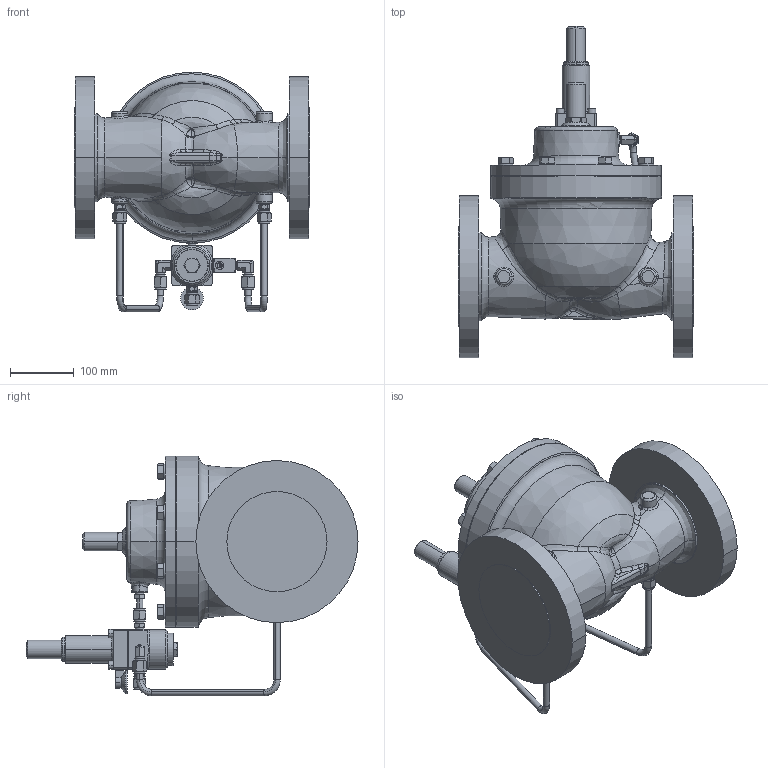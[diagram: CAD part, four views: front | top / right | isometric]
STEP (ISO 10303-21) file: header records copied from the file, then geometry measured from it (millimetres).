
FILE_DESCRIPTION((''),'2;1');
FILE_NAME('330227_ARGOS_4_300_SW0001','2019-10-30T',('jjunior'),(''),'PRO/ENGINEER BY PARAMETRIC TECHNOLOGY CORPORATION, 2010160','PRO/ENGINEER BY PARAMETRIC TECHNOLOGY CORPORATION, 2010160','');
FILE_SCHEMA(('CONFIG_CONTROL_DESIGN'));
Length unit declared in the file: millimetre
Products named in the file (1): 330227_ARGOS_4_300_SW0001
Bounding box: 368.3 x 520.1 x 375.7 mm (x, y, z)
Volume: 15342665.3 mm3; surface area: 636382 mm2
Topology: 1 solids, 2 shells, 963 faces, 2308 edges, 1429 vertices
Faces by surface type: plane 332, cone 261, cylinder 226, bspline 89, torus 51, revolution 2, sphere 2
Entity records: 40383 total; most frequent: CARTESIAN_POINT 19018, ORIENTED_EDGE 4612, DIRECTION 4216, EDGE_CURVE 2306, AXIS2_PLACEMENT_3D 1733, VERTEX_POINT 1429, EDGE_LOOP 1059, FACE_OUTER_BOUND 963
